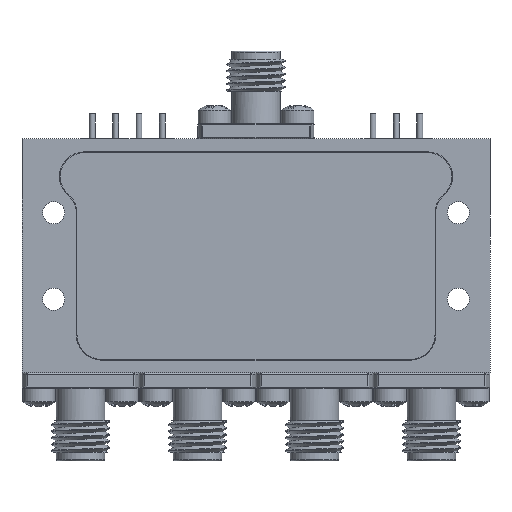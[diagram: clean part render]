
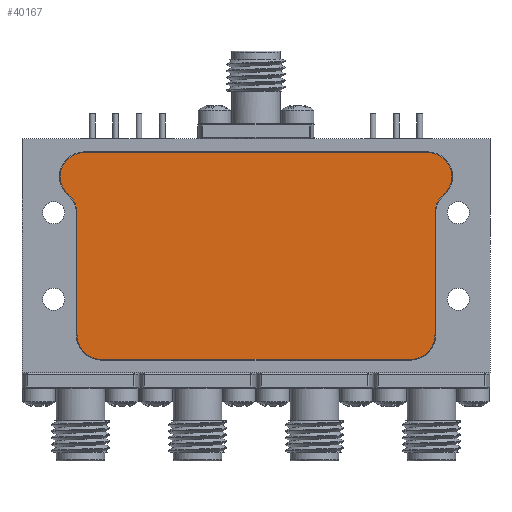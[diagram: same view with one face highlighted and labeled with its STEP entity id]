
A CAD part, front view. The second image highlights one B-rep face of the part: STEP entity #40167.
In plain terms, the highlighted planar face has unit normal (0, -1, 0).
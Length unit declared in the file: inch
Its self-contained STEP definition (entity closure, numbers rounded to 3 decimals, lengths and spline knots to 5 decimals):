
#471 = DIRECTION ( 'NONE',  ( 0., -1., 0. ) ) ;
#916 = AXIS2_PLACEMENT_3D ( 'NONE', #25573, #471, #25985 ) ;
#1523 = DIRECTION ( 'NONE',  ( 0., -1., 0. ) ) ;
#1769 = DIRECTION ( 'NONE',  ( 0., 0., -1. ) ) ;
#2089 = CIRCLE ( 'NONE', #916, 0.105 ) ;
#3433 = DIRECTION ( 'NONE',  ( 0., -1., 0. ) ) ;
#3777 = CARTESIAN_POINT ( 'NONE',  ( 0.765, 0.002, 0.185 ) ) ;
#4764 = CIRCLE ( 'NONE', #24769, 0.105 ) ;
#5327 = CIRCLE ( 'NONE', #6728, 0.105 ) ;
#6728 = AXIS2_PLACEMENT_3D ( 'NONE', #65977, #60111, #65169 ) ;
#7055 = EDGE_CURVE ( 'NONE', #64506, #45148, #53757, .T. ) ;
#7362 = AXIS2_PLACEMENT_3D ( 'NONE', #71849, #59305, #1769 ) ;
#8176 = CARTESIAN_POINT ( 'NONE',  ( -0.83797, 0.002, 0.33942 ) ) ;
#8214 = DIRECTION ( 'NONE',  ( 0., 0., -1. ) ) ;
#8746 = VERTEX_POINT ( 'NONE', #9322 ) ;
#9210 = VERTEX_POINT ( 'NONE', #48968 ) ;
#9322 = CARTESIAN_POINT ( 'NONE',  ( 0.80061, 0.002, 0.26151 ) ) ;
#9958 = CARTESIAN_POINT ( 'NONE',  ( -0.733, 0.002, 0.337 ) ) ;
#11296 = LINE ( 'NONE', #62528, #23291 ) ;
#12347 = CARTESIAN_POINT ( 'NONE',  ( -0.765, 0.002, -0.337 ) ) ;
#14030 = VERTEX_POINT ( 'NONE', #47957 ) ;
#15304 = CARTESIAN_POINT ( 'NONE',  ( -0.765, 0.002, -0.337 ) ) ;
#15638 = EDGE_CURVE ( 'NONE', #45567, #21325, #4764, .T. ) ;
#16464 = ORIENTED_EDGE ( 'NONE', *, *, #37836, .T. ) ;
#17563 = LINE ( 'NONE', #3777, #30820 ) ;
#17897 = AXIS2_PLACEMENT_3D ( 'NONE', #9958, #21662, #53656 ) ;
#17914 = CARTESIAN_POINT ( 'NONE',  ( 0.865, 0.002, 0.185 ) ) ;
#19763 = DIRECTION ( 'NONE',  ( 0., 0., -1. ) ) ;
#20064 = CARTESIAN_POINT ( 'NONE',  ( 0.733, 0.002, 0.442 ) ) ;
#20090 = ORIENTED_EDGE ( 'NONE', *, *, #15638, .T. ) ;
#20340 = CARTESIAN_POINT ( 'NONE',  ( -0.733, 0.002, 0.34185 ) ) ;
#20756 = DIRECTION ( 'NONE',  ( 0., 0., -1. ) ) ;
#20981 = DIRECTION ( 'NONE',  ( 0., -1., 0. ) ) ;
#21325 = VERTEX_POINT ( 'NONE', #63827 ) ;
#21600 = VERTEX_POINT ( 'NONE', #20064 ) ;
#21662 = DIRECTION ( 'NONE',  ( 0., -1., 0. ) ) ;
#22489 = FACE_OUTER_BOUND ( 'NONE', #65617, .T. ) ;
#22987 = DIRECTION ( 'NONE',  ( 0., 0., 1. ) ) ;
#23291 = VECTOR ( 'NONE', #30168, 39.37008 ) ;
#24303 = ORIENTED_EDGE ( 'NONE', *, *, #79288, .T. ) ;
#24769 = AXIS2_PLACEMENT_3D ( 'NONE', #60922, #3433, #28981 ) ;
#25134 = CIRCLE ( 'NONE', #73468, 0.1 ) ;
#25157 = ORIENTED_EDGE ( 'NONE', *, *, #7055, .T. ) ;
#25573 = CARTESIAN_POINT ( 'NONE',  ( 0.733, 0.002, 0.337 ) ) ;
#25985 = DIRECTION ( 'NONE',  ( 0., 0., -1. ) ) ;
#26496 = AXIS2_PLACEMENT_3D ( 'NONE', #81747, #49788, #62812 ) ;
#28180 = VERTEX_POINT ( 'NONE', #65528 ) ;
#28553 = CARTESIAN_POINT ( 'NONE',  ( -0.80061, 0.002, 0.26151 ) ) ;
#28981 = DIRECTION ( 'NONE',  ( 0., 0., -1. ) ) ;
#30168 = DIRECTION ( 'NONE',  ( 1., 0., 0. ) ) ;
#30758 = ORIENTED_EDGE ( 'NONE', *, *, #40708, .T. ) ;
#30820 = VECTOR ( 'NONE', #22987, 39.37008 ) ;
#32027 = LINE ( 'NONE', #37502, #32827 ) ;
#32827 = VECTOR ( 'NONE', #63122, 39.37008 ) ;
#34529 = CIRCLE ( 'NONE', #26496, 0.105 ) ;
#36317 = AXIS2_PLACEMENT_3D ( 'NONE', #20340, #1523, #8214 ) ;
#37502 = CARTESIAN_POINT ( 'NONE',  ( -0.733, 0.002, 0.442 ) ) ;
#37836 = EDGE_CURVE ( 'NONE', #28180, #45567, #39727, .T. ) ;
#37914 = ORIENTED_EDGE ( 'NONE', *, *, #41950, .T. ) ;
#38522 = EDGE_CURVE ( 'NONE', #8746, #9210, #41651, .T. ) ;
#39417 = EDGE_CURVE ( 'NONE', #14030, #47864, #17563, .T. ) ;
#39727 = LINE ( 'NONE', #15304, #73666 ) ;
#40167 = ADVANCED_FACE ( 'NONE', ( #22489 ), #74201, .T. ) ;
#40708 = EDGE_CURVE ( 'NONE', #21325, #66930, #11296, .T. ) ;
#41651 = CIRCLE ( 'NONE', #73848, 0.105 ) ;
#41950 = EDGE_CURVE ( 'NONE', #21600, #74186, #32027, .T. ) ;
#43948 = EDGE_CURVE ( 'NONE', #74186, #64506, #34529, .T. ) ;
#44839 = ORIENTED_EDGE ( 'NONE', *, *, #43948, .T. ) ;
#44919 = CARTESIAN_POINT ( 'NONE',  ( 0.66, 0.002, -0.442 ) ) ;
#45041 = EDGE_CURVE ( 'NONE', #66930, #14030, #5327, .T. ) ;
#45148 = VERTEX_POINT ( 'NONE', #28553 ) ;
#45567 = VERTEX_POINT ( 'NONE', #12347 ) ;
#47864 = VERTEX_POINT ( 'NONE', #57657 ) ;
#47957 = CARTESIAN_POINT ( 'NONE',  ( 0.765, 0.002, -0.337 ) ) ;
#48611 = DIRECTION ( 'NONE',  ( 0., 1., 0. ) ) ;
#48968 = CARTESIAN_POINT ( 'NONE',  ( 0.83797, 0.002, 0.33942 ) ) ;
#49257 = EDGE_CURVE ( 'NONE', #45148, #28180, #66374, .T. ) ;
#49788 = DIRECTION ( 'NONE',  ( 0., -1., 0. ) ) ;
#50513 = EDGE_CURVE ( 'NONE', #9210, #21600, #2089, .T. ) ;
#53656 = DIRECTION ( 'NONE',  ( 0., 0., -1. ) ) ;
#53757 = CIRCLE ( 'NONE', #36317, 0.105 ) ;
#57657 = CARTESIAN_POINT ( 'NONE',  ( 0.765, 0.002, 0.185 ) ) ;
#59305 = DIRECTION ( 'NONE',  ( 0., 1., 0. ) ) ;
#60111 = DIRECTION ( 'NONE',  ( 0., -1., 0. ) ) ;
#60669 = ORIENTED_EDGE ( 'NONE', *, *, #38522, .T. ) ;
#60922 = CARTESIAN_POINT ( 'NONE',  ( -0.66, 0.002, -0.337 ) ) ;
#62528 = CARTESIAN_POINT ( 'NONE',  ( 0.66, 0.002, -0.442 ) ) ;
#62812 = DIRECTION ( 'NONE',  ( 0., 0., -1. ) ) ;
#62970 = ORIENTED_EDGE ( 'NONE', *, *, #50513, .T. ) ;
#63122 = DIRECTION ( 'NONE',  ( -1., 0., 0. ) ) ;
#63827 = CARTESIAN_POINT ( 'NONE',  ( -0.66, 0.002, -0.442 ) ) ;
#64506 = VERTEX_POINT ( 'NONE', #8176 ) ;
#64561 = ORIENTED_EDGE ( 'NONE', *, *, #45041, .T. ) ;
#65169 = DIRECTION ( 'NONE',  ( 0., 0., -1. ) ) ;
#65528 = CARTESIAN_POINT ( 'NONE',  ( -0.765, 0.002, 0.185 ) ) ;
#65617 = EDGE_LOOP ( 'NONE', ( #44839, #25157, #71178, #16464, #20090, #30758, #64561, #65670, #24303, #60669, #62970, #37914 ) ) ;
#65670 = ORIENTED_EDGE ( 'NONE', *, *, #39417, .T. ) ;
#65977 = CARTESIAN_POINT ( 'NONE',  ( 0.66, 0.002, -0.337 ) ) ;
#66374 = CIRCLE ( 'NONE', #7362, 0.1 ) ;
#66930 = VERTEX_POINT ( 'NONE', #44919 ) ;
#67634 = CARTESIAN_POINT ( 'NONE',  ( -0.733, 0.002, 0.442 ) ) ;
#67882 = DIRECTION ( 'NONE',  ( 0., 0., -1. ) ) ;
#71178 = ORIENTED_EDGE ( 'NONE', *, *, #49257, .T. ) ;
#71849 = CARTESIAN_POINT ( 'NONE',  ( -0.865, 0.002, 0.185 ) ) ;
#73468 = AXIS2_PLACEMENT_3D ( 'NONE', #17914, #48611, #67882 ) ;
#73666 = VECTOR ( 'NONE', #20756, 39.37008 ) ;
#73848 = AXIS2_PLACEMENT_3D ( 'NONE', #77346, #20981, #19763 ) ;
#74186 = VERTEX_POINT ( 'NONE', #67634 ) ;
#74201 = PLANE ( 'NONE',  #17897 ) ;
#77346 = CARTESIAN_POINT ( 'NONE',  ( 0.733, 0.002, 0.34185 ) ) ;
#79288 = EDGE_CURVE ( 'NONE', #47864, #8746, #25134, .T. ) ;
#81747 = CARTESIAN_POINT ( 'NONE',  ( -0.733, 0.002, 0.337 ) ) ;
